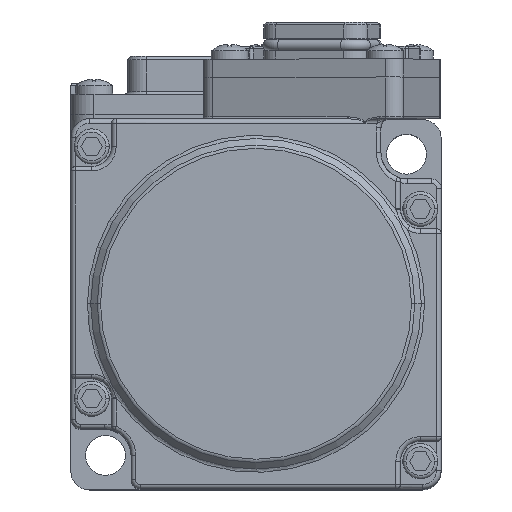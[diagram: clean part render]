
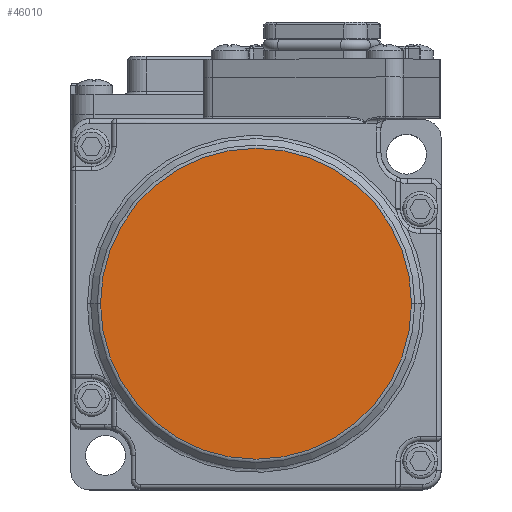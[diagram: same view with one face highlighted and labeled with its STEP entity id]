
A CAD part, top view. The second image highlights one B-rep face of the part: STEP entity #46010.
In plain terms, the highlighted planar face has unit normal (0, 0, 1).
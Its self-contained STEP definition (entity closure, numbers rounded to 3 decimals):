
#41290=CARTESIAN_POINT('',(0.,0.,17.5));
#41291=DIRECTION('',(0.,0.,1.));
#41292=DIRECTION('',(-1.,0.,0.));
#41293=AXIS2_PLACEMENT_3D('',#41290,#41291,#41292);
#41295=CARTESIAN_POINT('',(0.,0.,17.5));
#41296=DIRECTION('',(0.,0.,1.));
#41297=DIRECTION('',(1.,0.,0.));
#41298=AXIS2_PLACEMENT_3D('',#41295,#41296,#41297);
#41487=CARTESIAN_POINT('',(-16.793,0.,17.5));
#41488=CARTESIAN_POINT('',(16.793,0.,17.5));
#41489=VERTEX_POINT('',#41487);
#41490=VERTEX_POINT('',#41488);
#46000=CARTESIAN_POINT('',(0.,0.,17.5));
#46001=DIRECTION('',(0.,0.,1.));
#46002=DIRECTION('',(1.,0.,0.));
#46003=AXIS2_PLACEMENT_3D('',#46000,#46001,#46002);
#46004=PLANE('',#46003);
#46006=ORIENTED_EDGE('',*,*,#46005,.F.);
#46007=ORIENTED_EDGE('',*,*,#45990,.F.);
#46008=EDGE_LOOP('',(#46006,#46007));
#46009=FACE_OUTER_BOUND('',#46008,.F.);
#46010=ADVANCED_FACE('',(#46009),#46004,.T.);
#41294=CIRCLE('',#41293,16.793);
#41299=CIRCLE('',#41298,16.793);
#45990=EDGE_CURVE('',#41490,#41489,#41299,.T.);
#46005=EDGE_CURVE('',#41489,#41490,#41294,.T.);
